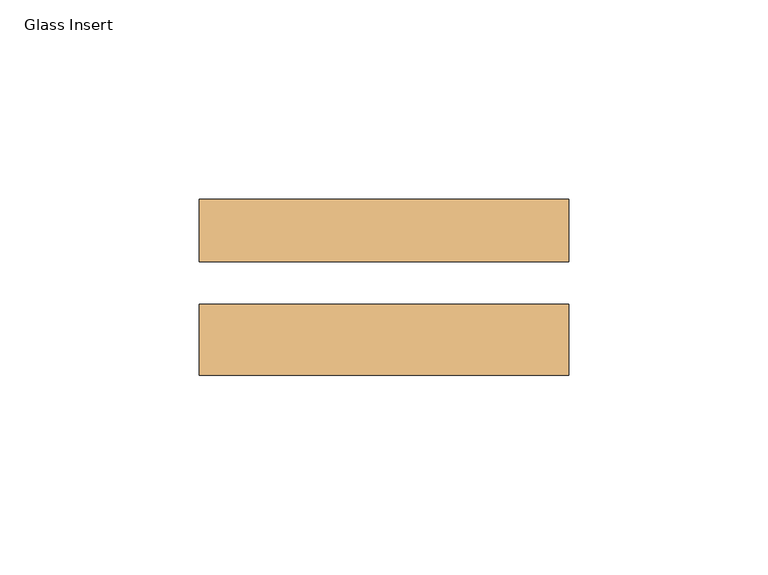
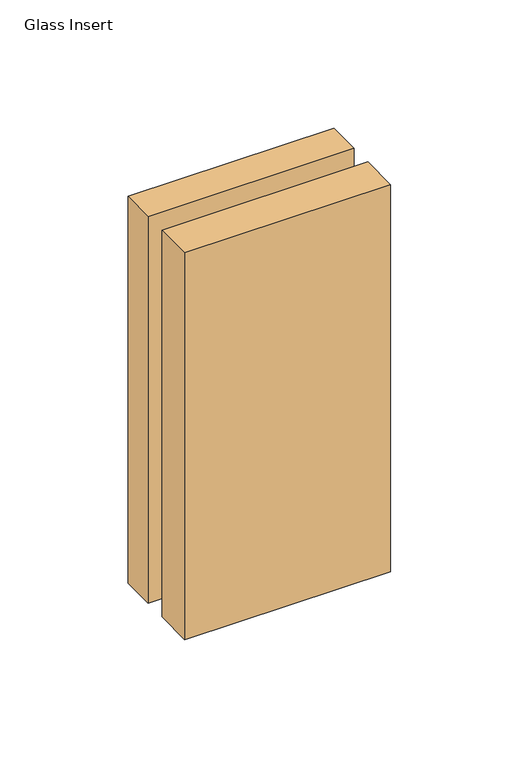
"""IFC4 building model written with IfcOpenShell, lengths in millimetres: door geometry, Door-Pivot_Low_Profile-Teknion-Altos-Right_Swing : Glass Insert."""

from ifc_helpers import new_model, si_unit, frame, origin, place, context, project, spatial, polyline, outline, extrude, source, transform, mapped, element, save


def glass_insert_bf704de9(model_context):
    return source(origin(), model_context, "Body", "SweptSolid", [
        extrude(outline(polyline([(-453.9952344, -31.4313545), (-361.2852344, -31.4313545), (-361.2852344, -49.2748545), (-453.9952344, -49.2748545), (-453.9952344, -31.4313545)])), frame((0.0, 0.0, 906.5514), z_axis=(0.0, 0.0, 1.0), x_axis=(1.0, 0.0, 0.0)), (0.0, 0.0, 1.0), 184.15),
        extrude(outline(polyline([(-453.9952344, -5.1042545), (-361.2852344, -5.1042545), (-361.2852344, -20.8268545), (-453.9952344, -20.8268545), (-453.9952344, -5.1042545)])), frame((0.0, 0.0, 906.5514), z_axis=(0.0, 0.0, 1.0), x_axis=(1.0, 0.0, 0.0)), (0.0, 0.0, 1.0), 184.15),
    ])


if __name__ == "__main__":
    model = new_model("IFC4")
    model_context = context("Model", 3, world=origin())
    ifc_project = project(units=[si_unit("LENGTHUNIT", "METRE", prefix="MILLI")], contexts=[model_context])
    site = spatial("IfcSite", under=ifc_project)
    building = spatial("IfcBuilding", under=site)
    placement = place(None, origin())
    glass_insert_shape = glass_insert_bf704de9(model_context)
    element("IfcDoor", 1, ObjectType="Door-Pivot_Low_Profile-Teknion-Altos-Right_Swing : Glass Insert", at=placement, inside=building, context=model_context, shape_type="MappedRepresentation", body=[
        mapped(glass_insert_shape, transform((0.0, 0.0, 0.0), x_axis=(1.0, 0.0, 0.0), y_axis=(0.0, 1.0, 0.0), z_axis=(0.0, 0.0, 1.0))),
    ])
    save(model, "model.ifc")
